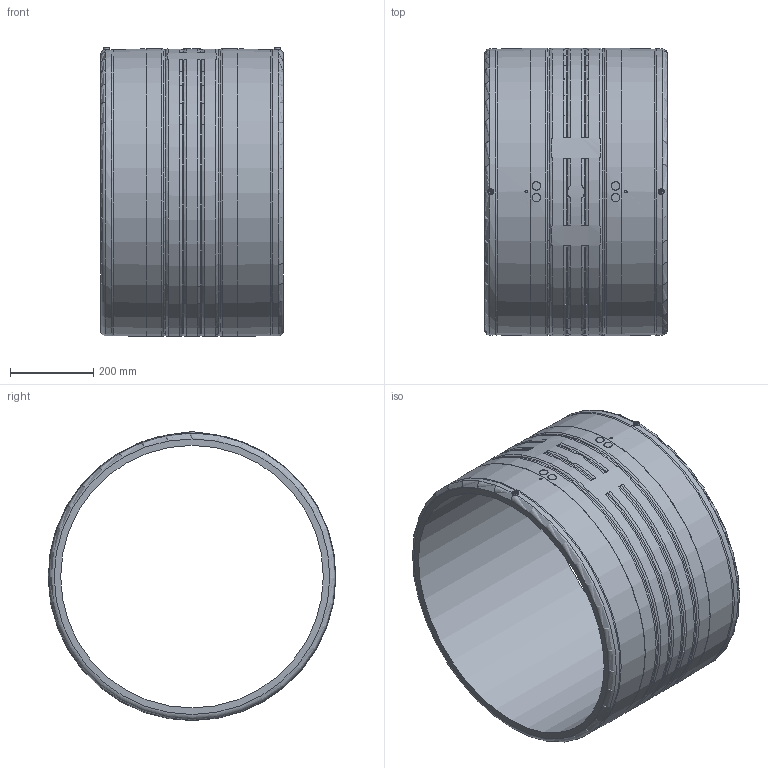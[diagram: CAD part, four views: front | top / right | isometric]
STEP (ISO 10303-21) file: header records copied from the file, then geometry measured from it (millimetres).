
FILE_DESCRIPTION(/* description */ ('Unknown'),/* implementation_level */ '2;1');
FILE_NAME(/* name */ 'MP630A',/* time_stamp */ '2021-06-24T10:02:37+02:00',/* author */ ('Unknown'),/* organization */ ('Unknown'),/* preprocessor_version */ 'ST-DEVELOPER v16.7',/* originating_system */ 'Solid Edge',/* authorisation */ 'Unknown');
FILE_SCHEMA (('AUTOMOTIVE_DESIGN {1 0 10303 214 3 1 1}'));
Length unit declared in the file: millimetre
Products named in the file (1): MP630A
Bounding box: 439 x 690 x 693.3 mm (x, y, z)
Volume: 26461420.7 mm3; surface area: 1919859.2 mm2
Topology: 1 solids, 1 shells, 84 faces, 199 edges, 129 vertices
Faces by surface type: torus 28, cylinder 26, plane 26, cone 4
Full cylindrical faces by diameter (mm): 4 x2, 6 x2, 10 x2, 20 x4, 630 x1, 687 x2, 690 x3
Entity records: 2302 total; most frequent: CARTESIAN_POINT 649, DIRECTION 326, ORIENTED_EDGE 288, AXIS2_PLACEMENT_3D 155, EDGE_CURVE 144, EDGE_LOOP 134, FACE_BOUND 134, VERTEX_POINT 110
